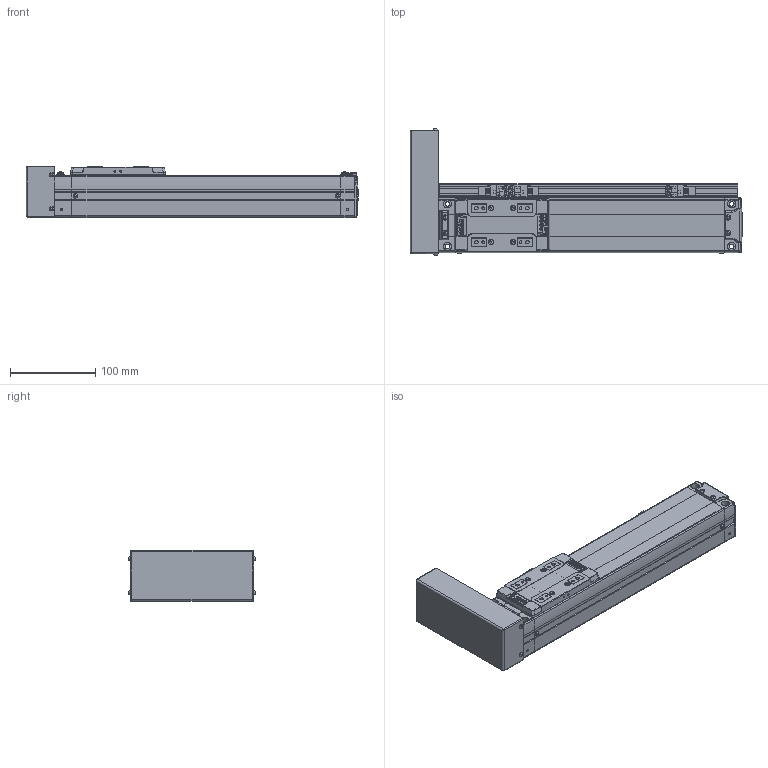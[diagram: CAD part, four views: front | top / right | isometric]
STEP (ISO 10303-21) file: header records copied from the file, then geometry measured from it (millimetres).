
FILE_DESCRIPTION(('STEP AP214'),'1');
FILE_NAME('Z:/Web/3D/SAN65/STP/SAN65ㅁㅁ-200PL+3SL.stp','2012-06-14T04:20:35',(' '),(' '),'Spatial InterOp 3D',' ',' ');
FILE_SCHEMA(('automotive_design'));
Length unit declared in the file: metre
Products named in the file (57): SAN65__-200; BODY-SAN65; REAR-SAN65; RRCV-SAN65; 스크루 : Round - M3.0 x 6.0; FRONT-SAN65; SHAFT-SAN65; RN8 x 0.75; SSFX-SAN65; SLIDE-SAN65; SLCV-SAN65; 스크루 : Countersunk - M3.0 x 6.0; ____202; PL; BTCV-SAN65; BHCS M3 X 6L; 3SL; SRL-16x17-450L; - OT; EE-SX674; SBK-SX674-352; HOME; + OT; DOG; SDG-SAN65; 스크루 : Round - M3.0 x 5.0
Assembly tree (56 placements, depth 4):
  ____202
    SAN65__-200
      BODY-SAN65
      REAR-SAN65
        REAR-SAN65
        RRCV-SAN65
        스크루 : Round - M3.0 x 6.0
        스크루 : Round - M3.0 x 6.0
        스크루 : Round - M3.0 x 6.0
        스크루 : Round - M3.0 x 6.0
        스크루 : Round - M3.0 x 6.0
        스크루 : Round - M3.0 x 6.0
      FRONT-SAN65
        FRONT-SAN65
        SHAFT-SAN65
        RN8 x 0.75
        SSFX-SAN65
        스크루 : Round - M3.0 x 6.0
        스크루 : Round - M3.0 x 6.0
        스크루 : Round - M3.0 x 6.0
        스크루 : Round - M3.0 x 6.0
      SLIDE-SAN65
        SLIDE-SAN65
        SLCV-SAN65
        스크루 : Countersunk - M3.0 x 6.0
        스크루 : Countersunk - M3.0 x 6.0
        스크루 : Countersunk - M3.0 x 6.0
        스크루 : Countersunk - M3.0 x 6.0
    PL
      BTCV-SAN65
      BHCS M3 X 6L
      BHCS M3 X 6L
      BHCS M3 X 6L
      BHCS M3 X 6L
    3SL
      SRL-16x17-450L
      스크루 : Round - M3.0 x 6.0
      스크루 : Round - M3.0 x 6.0
      - OT
        EE-SX674
        SBK-SX674-352
        스크루 : Round - M3.0 x 6.0
        스크루 : Round - M3.0 x 6.0
      HOME
        EE-SX674
        SBK-SX674-352
        스크루 : Round - M3.0 x 6.0
        스크루 : Round - M3.0 x 6.0
      + OT
        EE-SX674
        SBK-SX674-352
        스크루 : Round - M3.0 x 6.0
        스크루 : Round - M3.0 x 6.0
      DOG
        SDG-SAN65
        스크루 : Round - M3.0 x 5.0
        스크루 : Round - M3.0 x 5.0
Bounding box: 390.15 x 149.13 x 61 mm (x, y, z)
Volume: 1475219.9 mm3; surface area: 241522.5 mm2
Topology: 46 solids, 46 shells, 1943 faces, 4964 edges, 3236 vertices
Faces by surface type: plane 1292, cylinder 478, cone 89, sphere 36, bspline 30, torus 15, extrusion 3
Full cylindrical faces by diameter (mm): 0.571 x2, 0.706 x1, 1.727 x2, 2.132 x1, 2.2 x4, 2.5 x15, 2.528 x4, 3 x6, 3.121 x2, 3.3 x4, 3.4 x8, 3.5 x14, 4.2 x20, 4.849 x4, 5 x3, 5.5 x4, 5.987 x2, 6 x6, 6.35 x1, 6.5 x2, 7 x1, 8 x4, 9.5 x4, 13 x1, 15 x1, 19 x1, 26 x1, 38.1 x1
Entity records: 78537 total; most frequent: CARTESIAN_POINT 14993, DIRECTION 9757, ORIENTED_EDGE 9300, EDGE_CURVE 4650, VECTOR 3293, LINE 3290, AXIS2_PLACEMENT_3D 3232, VERTEX_POINT 3176
